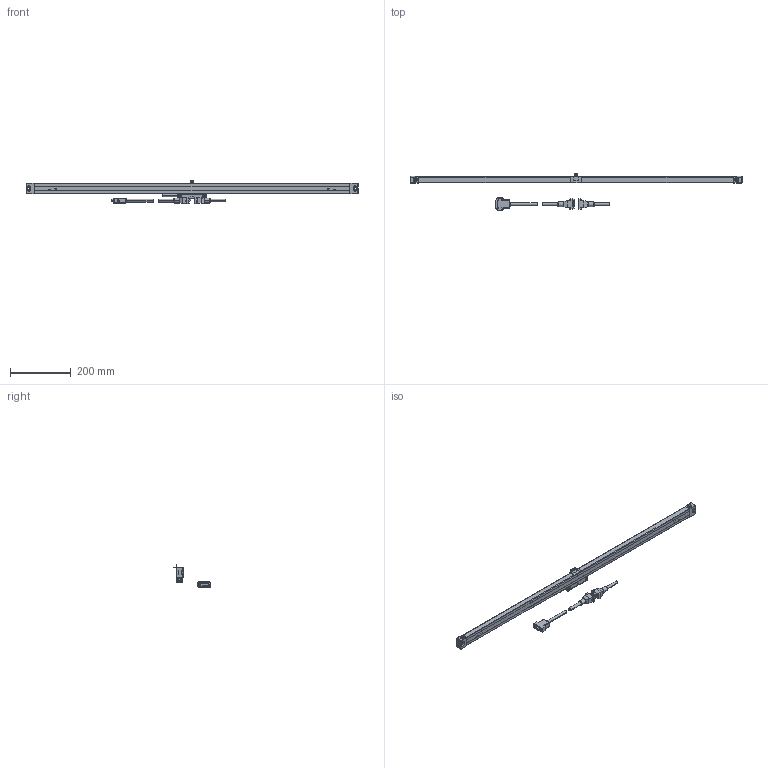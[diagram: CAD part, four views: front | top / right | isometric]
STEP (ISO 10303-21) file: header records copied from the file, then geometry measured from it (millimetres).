
FILE_DESCRIPTION(('Creo Elements/Direct Modeling STEP Export'),'2;1');
FILE_NAME('AT211-900B.stp','2018-03-15T11:42:37',(''),(''),'Creo Elements/Direct Modeling STEP processor for AP214 (Solid Model)','Creo Elements/Direct Modeling 18.1B 29-Sep-2012 (C) Parametric Technology GmbH','');
FILE_SCHEMA(('AUTOMOTIVE_DESIGN { 1 0 10303 214 1 1 1 1 }'));
Length unit declared in the file: millimetre
Products named in the file (8): Detector_Head; Scale_900_1; Head_Cable; SignalCable; D-sub15; Cable; Scale_900_2; AT211-900B
Assembly tree (7 placements, depth 3):
  AT211-900B
    Scale_900_2
    Cable
      D-sub15
      SignalCable
      Head_Cable
    Scale_900_1
    Detector_Head
Bounding box: 1096 x 121.19 x 75.93 mm (x, y, z)
Volume: 1470021.1 mm3; surface area: 297829.3 mm2
Topology: 6 solids, 14 shells, 1398 faces, 3456 edges, 2107 vertices
Faces by surface type: plane 790, cylinder 418, sphere 64, cone 52, torus 34, extrusion 32, revolution 8
Entity records: 42062 total; most frequent: CARTESIAN_POINT 9845, ORIENTED_EDGE 6784, DIRECTION 6354, EDGE_CURVE 3392, VECTOR 2162, LINE 2150, VERTEX_POINT 2107, AXIS2_PLACEMENT_3D 2090
